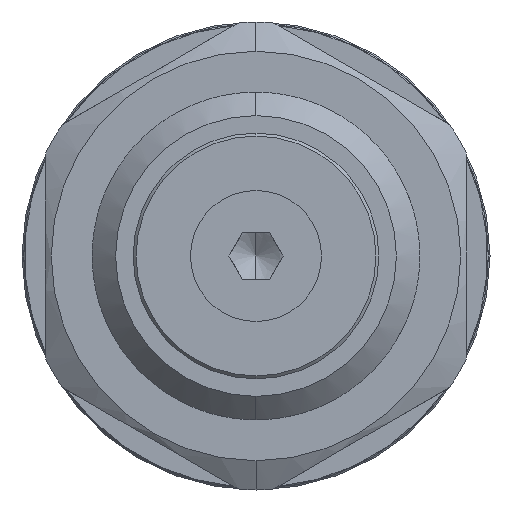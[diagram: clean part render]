
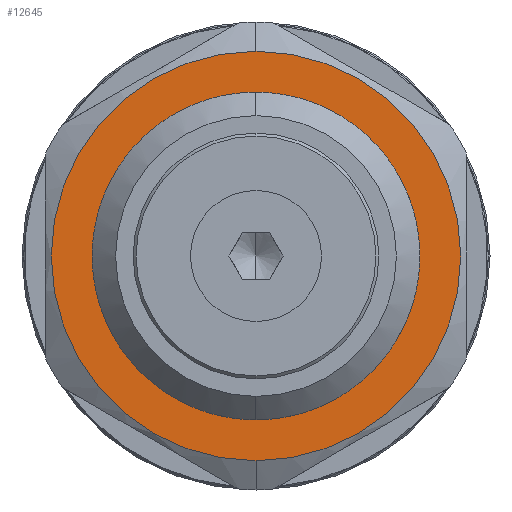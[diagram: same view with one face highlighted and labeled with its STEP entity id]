
A CAD part, left-side view. The second image highlights one B-rep face of the part: STEP entity #12645.
In plain terms, the highlighted planar face has unit normal (-1, 0, 0).
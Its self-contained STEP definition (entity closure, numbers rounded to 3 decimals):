
#774 = AXIS2_PLACEMENT_3D ( 'NONE', #10371, #24914, #12501 ) ;
#890 = CIRCLE ( 'NONE', #19111, 12.5 ) ;
#1854 = DIRECTION ( 'NONE',  ( 1., 0., 0. ) ) ;
#1967 = DIRECTION ( 'NONE',  ( 1., 0., 0. ) ) ;
#2138 = AXIS2_PLACEMENT_3D ( 'NONE', #14571, #1967, #16699 ) ;
#3559 = VERTEX_POINT ( 'NONE', #16006 ) ;
#3732 = VERTEX_POINT ( 'NONE', #16546 ) ;
#3978 = VERTEX_POINT ( 'NONE', #6829 ) ;
#5212 = VERTEX_POINT ( 'NONE', #20649 ) ;
#6064 = CARTESIAN_POINT ( 'NONE',  ( 0., 0., 0. ) ) ;
#6829 = CARTESIAN_POINT ( 'NONE',  ( 0., 0., 17.5 ) ) ;
#7564 = FACE_BOUND ( 'NONE', #24446, .T. ) ;
#8168 = DIRECTION ( 'NONE',  ( 0., -1., 0. ) ) ;
#10371 = CARTESIAN_POINT ( 'NONE',  ( 0., 0., 0. ) ) ;
#11526 = DIRECTION ( 'NONE',  ( -1., 0., 0. ) ) ;
#12501 = DIRECTION ( 'NONE',  ( 0., 0., 1. ) ) ;
#12645 = ADVANCED_FACE ( 'NONE', ( #24195, #7564 ), #22771, .T. ) ;
#13529 = AXIS2_PLACEMENT_3D ( 'NONE', #6064, #20725, #8168 ) ;
#14114 = EDGE_CURVE ( 'NONE', #3732, #5212, #890, .T. ) ;
#14467 = CARTESIAN_POINT ( 'NONE',  ( 0., 0., 0. ) ) ;
#14571 = CARTESIAN_POINT ( 'NONE',  ( 0., 0., 0. ) ) ;
#14948 = AXIS2_PLACEMENT_3D ( 'NONE', #14467, #1854, #16582 ) ;
#16006 = CARTESIAN_POINT ( 'NONE',  ( 0., 0., -17.5 ) ) ;
#16546 = CARTESIAN_POINT ( 'NONE',  ( 0., 12.5, 0. ) ) ;
#16582 = DIRECTION ( 'NONE',  ( 0., 0., -1. ) ) ;
#16699 = DIRECTION ( 'NONE',  ( 0., 0., -1. ) ) ;
#16707 = EDGE_CURVE ( 'NONE', #3559, #3978, #25527, .T. ) ;
#18161 = CIRCLE ( 'NONE', #14948, 17.5 ) ;
#18716 = EDGE_CURVE ( 'NONE', #3978, #3559, #18161, .T. ) ;
#18720 = EDGE_CURVE ( 'NONE', #5212, #3732, #23623, .T. ) ;
#19111 = AXIS2_PLACEMENT_3D ( 'NONE', #23983, #11526, #26062 ) ;
#20649 = CARTESIAN_POINT ( 'NONE',  ( 0., -12.5, 0. ) ) ;
#20656 = ORIENTED_EDGE ( 'NONE', *, *, #16707, .F. ) ;
#20725 = DIRECTION ( 'NONE',  ( -1., 0., 0. ) ) ;
#21721 = ORIENTED_EDGE ( 'NONE', *, *, #18716, .F. ) ;
#21793 = EDGE_LOOP ( 'NONE', ( #20656, #21721 ) ) ;
#22163 = ORIENTED_EDGE ( 'NONE', *, *, #14114, .F. ) ;
#22771 = PLANE ( 'NONE',  #774 ) ;
#22851 = ORIENTED_EDGE ( 'NONE', *, *, #18720, .F. ) ;
#23623 = CIRCLE ( 'NONE', #13529, 12.5 ) ;
#23983 = CARTESIAN_POINT ( 'NONE',  ( 0., 0., 0. ) ) ;
#24195 = FACE_OUTER_BOUND ( 'NONE', #21793, .T. ) ;
#24446 = EDGE_LOOP ( 'NONE', ( #22851, #22163 ) ) ;
#24914 = DIRECTION ( 'NONE',  ( -1., 0., 0. ) ) ;
#25527 = CIRCLE ( 'NONE', #2138, 17.5 ) ;
#26062 = DIRECTION ( 'NONE',  ( 0., -1., 0. ) ) ;
